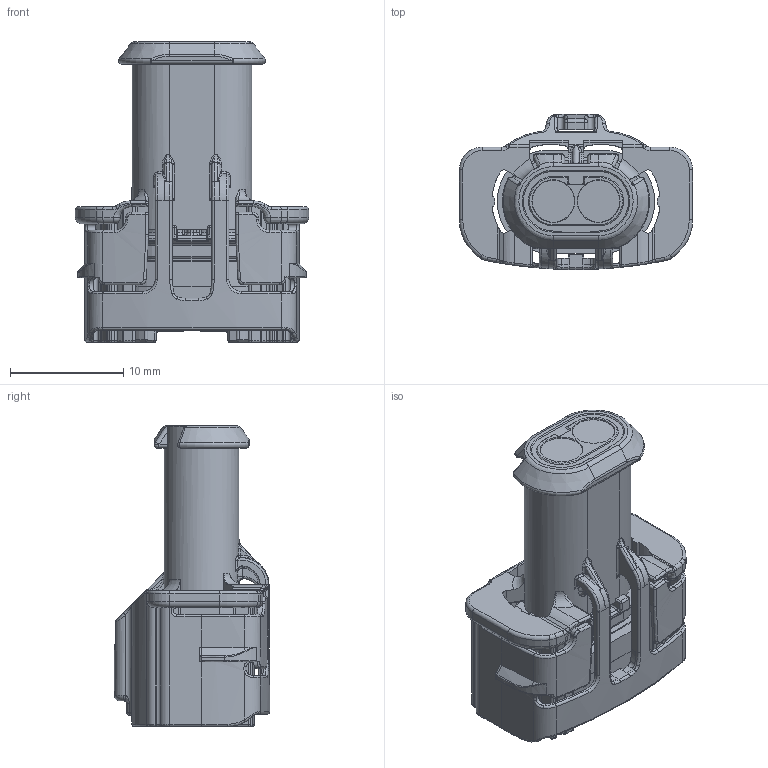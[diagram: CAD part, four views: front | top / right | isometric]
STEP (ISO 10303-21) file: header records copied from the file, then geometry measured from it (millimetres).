
FILE_DESCRIPTION(/* description */ (''),/* implementation_level */ '2;1');
FILE_NAME(/* name */ '1928A00152_00_002__altrep__1928A00152_00_a_01_2PSLM_.stp',/* time_stamp */ '2016-07-21T07:53:48+02:00',/* author */ (''),/* organization */ (''),/* preprocessor_version */ 'ST-DEVELOPER v15',/* originating_system */ 'SIEMENS PLM Software NX 9.0',/* authorisation */ '');
FILE_SCHEMA (('AUTOMOTIVE_DESIGN { 1 0 10303 214 3 1 1 1 }'));
Products named in the file (1): vbd50D285338nhd0
Bounding box: 20.6 x 13.7 x 26.57 mm (x, y, z)
Volume: 2556.8 mm3; surface area: 3143.1 mm2
Topology: 1 solids, 1 shells, 1488 faces, 3754 edges, 2184 vertices
Faces by surface type: cylinder 478, plane 398, bspline 315, torus 175, sphere 63, cone 51, extrusion 4, revolution 4
Entity records: 52899 total; most frequent: CARTESIAN_POINT 19724, ORIENTED_EDGE 7328, DIRECTION 6609, EDGE_CURVE 3664, AXIS2_PLACEMENT_3D 2569, VERTEX_POINT 2182, EDGE_LOOP 1508, ADVANCED_FACE 1488
